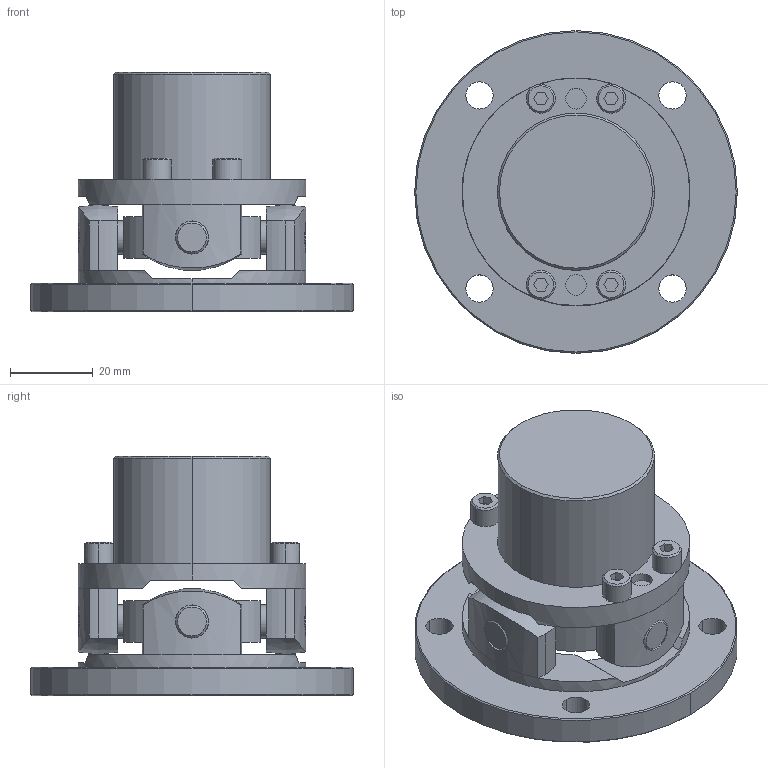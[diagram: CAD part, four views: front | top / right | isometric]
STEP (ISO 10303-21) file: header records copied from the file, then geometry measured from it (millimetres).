
FILE_DESCRIPTION((''),'2;1');
FILE_NAME('UCRF-55.stp','2013-05-13T09:17:41',(''),(''),'AutoCAD STEP 2000i','AutoCAD 2000i',', , ');
FILE_SCHEMA(('CONFIG_CONTROL_DESIGN'));
Length unit declared in the file: millimetre
Products named in the file (8): UCRF-55; 忣兜1; UCR-5502; UCN55-B017; UCNF-5502; UCN55-B010-1; UCN55-B010; UCN55-SEN
Assembly tree (7 placements, depth 2):
  UCRF-55
    忣兜1
    UCR-5502
    UCN55-B017
    UCNF-5502
    UCN55-B010-1
    UCN55-B010
    UCN55-SEN
Bounding box: 78 x 78 x 58 mm (x, y, z)
Volume: 88868.7 mm3; surface area: 28214.2 mm2
Topology: 1 solids, 1 shells, 243 faces, 598 edges, 386 vertices
Faces by surface type: plane 111, cylinder 94, cone 34, sphere 4
Entity records: 7789 total; most frequent: CARTESIAN_POINT 1591, DIRECTION 1360, ORIENTED_EDGE 1196, EDGE_CURVE 598, AXIS2_PLACEMENT_3D 527, VERTEX_POINT 386, VECTOR 306, LINE 306
